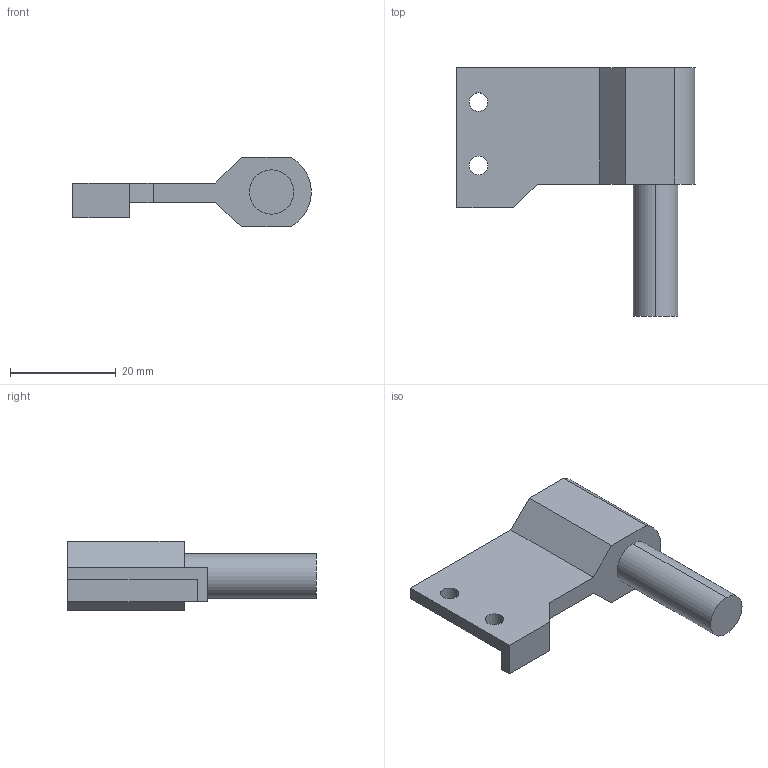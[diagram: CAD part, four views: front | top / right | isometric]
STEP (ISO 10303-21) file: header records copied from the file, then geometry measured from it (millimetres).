
FILE_DESCRIPTION (( 'STEP AP214' ), '1' );
FILE_NAME ('TPL-W-EU-539 01Nov2024.STEP', '2024-11-28T03:21:24', ( '' ), ( '' ), 'SwSTEP 2.0', 'SolidWorks 2023', '' );
FILE_SCHEMA (( 'AUTOMOTIVE_DESIGN' ));
Length unit declared in the file: millimetre
Products named in the file (1): TPL-W-EU-539 01Nov2024
Bounding box: 45.07 x 47 x 13.2 mm (x, y, z)
Volume: 7813.5 mm3; surface area: 4129.6 mm2
Topology: 1 solids, 1 shells, 31 faces, 80 edges, 53 vertices
Faces by surface type: plane 24, cylinder 7
Entity records: 971 total; most frequent: CARTESIAN_POINT 165, ORIENTED_EDGE 160, DIRECTION 158, EDGE_CURVE 80, VECTOR 66, LINE 66, VERTEX_POINT 53, AXIS2_PLACEMENT_3D 46
